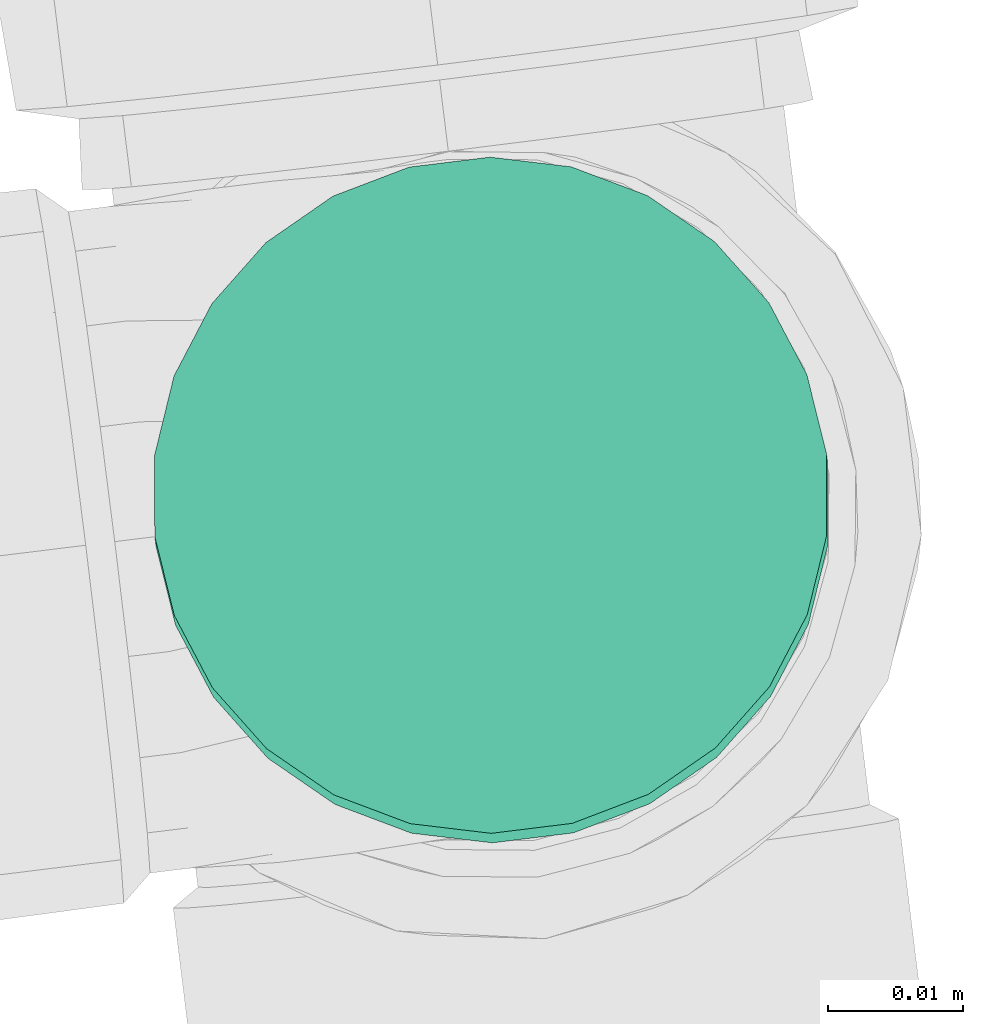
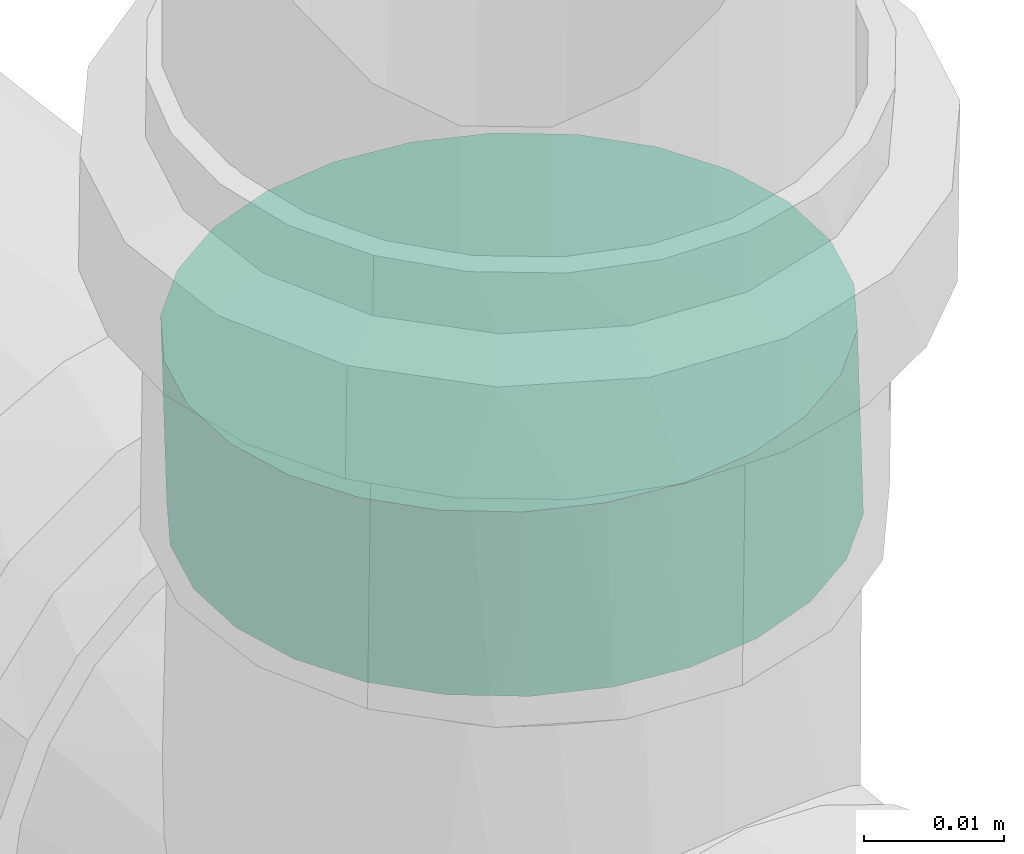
# One storey, part 75 of 97: 1 flow segment.
"""IFC2X3 building model written with IfcOpenShell, lengths in centimetres."""

from ifc_helpers import new_model, entity, si_unit, converted_unit, derived_unit, direction, frame, origin, origin_2d_with_axis, place, context, subcontext, project, spatial, circle, extrude, type_object, element, save


model = new_model("IFC2X3")

# Units and contexts
model_context = context("Model", 3, precision=0.001, world=origin(), true_north=direction((6.12303176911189e-17, 1.0)))
body_context = subcontext(model_context, "Body", "Model", "MODEL_VIEW")
ifc_project = project(units=[si_unit("LENGTHUNIT", "METRE", prefix="CENTI"), si_unit("AREAUNIT", "SQUARE_METRE"), si_unit("VOLUMEUNIT", "CUBIC_METRE"), converted_unit("PLANEANGLEUNIT", "DEGREE", entity("IfcRatioMeasure", 0.0174532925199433), si_unit("PLANEANGLEUNIT", "RADIAN"), dimensions=[0, 0, 0, 0, 0, 0, 0]), si_unit("MASSUNIT", "GRAM", prefix="KILO"), derived_unit("MASSDENSITYUNIT", [(si_unit("MASSUNIT", "GRAM", prefix="KILO"), 1), (si_unit("LENGTHUNIT", "METRE"), -3)]), derived_unit("MOMENTOFINERTIAUNIT", [(si_unit("LENGTHUNIT", "METRE"), 4)]), si_unit("TIMEUNIT", "SECOND"), si_unit("FREQUENCYUNIT", "HERTZ"), si_unit("THERMODYNAMICTEMPERATUREUNIT", "DEGREE_CELSIUS"), derived_unit("THERMALTRANSMITTANCEUNIT", [(si_unit("MASSUNIT", "GRAM", prefix="KILO"), 1), (si_unit("THERMODYNAMICTEMPERATUREUNIT", "KELVIN"), -1), (si_unit("TIMEUNIT", "SECOND"), -3)]), derived_unit("VOLUMETRICFLOWRATEUNIT", [(si_unit("LENGTHUNIT", "METRE"), 3), (si_unit("TIMEUNIT", "SECOND"), -1)]), si_unit("ELECTRICCURRENTUNIT", "AMPERE"), si_unit("ELECTRICVOLTAGEUNIT", "VOLT"), si_unit("POWERUNIT", "WATT"), si_unit("FORCEUNIT", "NEWTON", prefix="KILO"), si_unit("ILLUMINANCEUNIT", "LUX"), si_unit("LUMINOUSFLUXUNIT", "LUMEN"), si_unit("LUMINOUSINTENSITYUNIT", "CANDELA"), derived_unit("USERDEFINED", [(si_unit("MASSUNIT", "GRAM", prefix="KILO"), -1), (si_unit("LENGTHUNIT", "METRE"), -2), (si_unit("TIMEUNIT", "SECOND"), 3), (si_unit("LUMINOUSFLUXUNIT", "LUMEN"), 1)]), derived_unit("LINEARVELOCITYUNIT", [(si_unit("LENGTHUNIT", "METRE"), 1), (si_unit("TIMEUNIT", "SECOND"), -1)]), si_unit("PRESSUREUNIT", "PASCAL"), derived_unit("USERDEFINED", [(si_unit("LENGTHUNIT", "METRE"), -2), (si_unit("MASSUNIT", "GRAM", prefix="KILO"), 1), (si_unit("TIMEUNIT", "SECOND"), -2)]), derived_unit("LINEARFORCEUNIT", [(si_unit("MASSUNIT", "GRAM", prefix="KILO"), 1), (si_unit("LENGTHUNIT", "METRE"), 1), (si_unit("TIMEUNIT", "SECOND"), -2), (si_unit("LENGTHUNIT", "METRE"), -1)]), derived_unit("PLANARFORCEUNIT", [(si_unit("MASSUNIT", "GRAM", prefix="KILO"), 1), (si_unit("LENGTHUNIT", "METRE"), 1), (si_unit("TIMEUNIT", "SECOND"), -2), (si_unit("LENGTHUNIT", "METRE"), -2)])], contexts=[model_context])

# Site, building, storey
site_placement = place(None, origin())
site = spatial("IfcSite", under=ifc_project, at=site_placement, Name="Default", CompositionType="ELEMENT")
building_placement = place(site_placement, origin())
building = spatial("IfcBuilding", under=site, at=building_placement, Name="HIDROSSANITÁRIO", CompositionType="ELEMENT")
storey_placement = place(building_placement, frame((0.0, 0.0, -260.0)))
storey = spatial("IfcBuildingStorey", under=building, at=storey_placement, Name="TÉRREO-HID", CompositionType="ELEMENT", Elevation=-260.0)

# Flow segment
pipe_segment_type = type_object("IfcPipeSegmentType", Name="Tipos de tubos:Tubo - Esgoto - Série Normal", PredefinedType="NOTDEFINED")
flow_segment_placement = place(storey_placement, origin())
element("IfcFlowSegment", 1, at=flow_segment_placement, inside=storey, type_object=pipe_segment_type, Name="Tipos de tubos:Tubo - Esgoto - Série Normal", ObjectType="Tipos de tubos:Tubo - Esgoto - Série Normal", context=body_context, shape_type="SweptSolid", body=[
    extrude(circle(Radius=2.5, at=origin_2d_with_axis()), frame((-1580.05353023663, 3071.07378668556, -30.0289258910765), z_axis=(-0.00550969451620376, 0.044767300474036, 0.998982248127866), x_axis=(0.992511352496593, 0.122152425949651, 0.0)), (0.0, 0.0, 1.0), 1.57215793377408),
])

save(model, "model.ifc")
